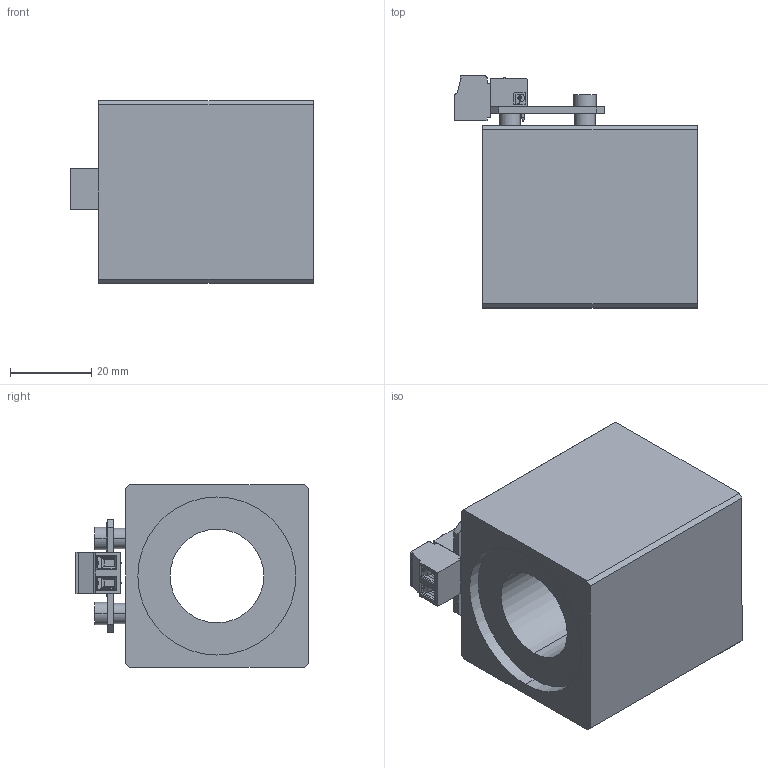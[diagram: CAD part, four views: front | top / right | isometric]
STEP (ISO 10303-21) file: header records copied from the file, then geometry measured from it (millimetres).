
FILE_DESCRIPTION (( 'STEP AP214' ), '1' );
FILE_NAME ('MXS45_23x50-M209a.STEP', '2015-07-17T05:45:40', ( '' ), ( '' ), 'SwSTEP 2.0', 'SolidWorks 2014', '' );
FILE_SCHEMA (( 'AUTOMOTIVE_DESIGN' ));
Length unit declared in the file: millimetre
Products named in the file (2): MXS45_23x50-M209a
Bounding box: 59.9 x 57.3 x 45 mm (x, y, z)
Volume: 85540.8 mm3; surface area: 20868 mm2
Topology: 12 solids, 12 shells, 559 faces, 1435 edges, 936 vertices
Faces by surface type: plane 357, cylinder 177, cone 14, bspline 11
Entity records: 23478 total; most frequent: CARTESIAN_POINT 3472, ORIENTED_EDGE 2850, DIRECTION 2804, EDGE_CURVE 1425, VECTOR 988, LINE 988, VERTEX_POINT 936, AXIS2_PLACEMENT_3D 908
